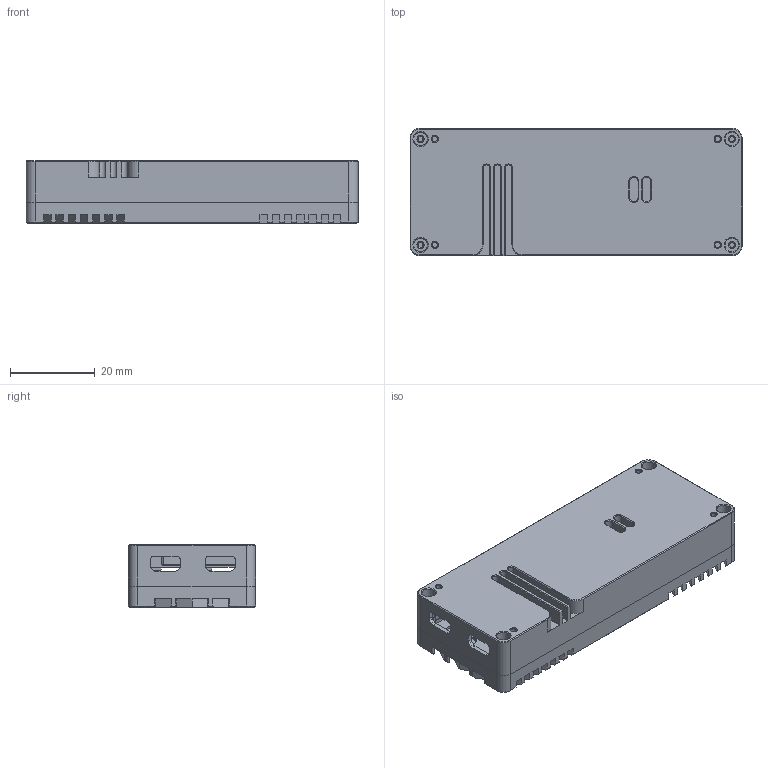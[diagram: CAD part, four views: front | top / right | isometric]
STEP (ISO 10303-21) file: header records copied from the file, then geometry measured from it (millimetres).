
FILE_DESCRIPTION (( 'STEP AP214' ), '1' );
FILE_NAME ('Herelink.STEP', '2020-11-13T02:05:56', ( 'User' ), ( 'User' ), 'SwSTEP 2.0', 'SolidWorks 2018', '' );
FILE_SCHEMA (( 'AUTOMOTIVE_DESIGN' ));
Length unit declared in the file: millimetre
Products named in the file (3): it_bottom_case_sky_side 狟裔.stp; it_topcase_sky_side 奻裔; Herelink
Assembly tree (2 placements, depth 2):
  Herelink
    it_topcase_sky_side 奻裔
    it_bottom_case_sky_side 狟裔.stp
Bounding box: 78.4 x 30 x 14.81 mm (x, y, z)
Volume: 9634.9 mm3; surface area: 19646.7 mm2
Topology: 2 solids, 2 shells, 995 faces, 2796 edges, 1836 vertices
Faces by surface type: plane 570, cylinder 329, cone 77, bspline 19
Entity records: 32873 total; most frequent: CARTESIAN_POINT 6580, ORIENTED_EDGE 5592, DIRECTION 5420, EDGE_CURVE 2796, LINE 1896, VECTOR 1896, VERTEX_POINT 1836, AXIS2_PLACEMENT_3D 1762
